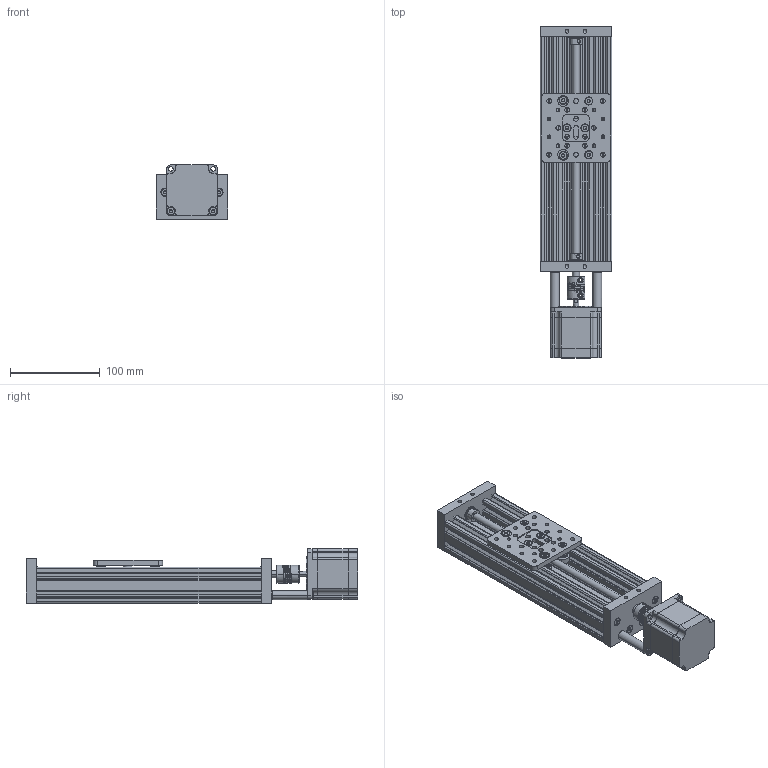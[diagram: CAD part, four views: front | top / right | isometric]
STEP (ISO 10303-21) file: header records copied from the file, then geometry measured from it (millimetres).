
FILE_DESCRIPTION(('FreeCAD Model'),'2;1');
FILE_NAME('Open CASCADE Shape Model','2021-05-04T10:34:42',('Author'),( ''),'Open CASCADE STEP processor 7.5','FreeCAD','Unknown');
FILE_SCHEMA(('AUTOMOTIVE_DESIGN { 1 0 10303 214 1 1 1 1 }'));
Products named in the file (1): Document
Bounding box: 80 x 370 x 60.67 mm (x, y, z)
Volume: 530553.6 mm3; surface area: 313214.2 mm2
Topology: 64 solids, 64 shells, 1578 faces, 11500 edges, 33149 vertices
Faces by surface type: bspline 826, plane 752
Entity records: 214814 total; most frequent: CARTESIAN_POINT 118391, B_SPLINE_CURVE_WITH_KNOTS 12012, GEOMETRIC_CURVE_SET 7665, ORIENTED_EDGE 7656, PCURVE 7656, DEFINITIONAL_REPRESENTATION 7656, TRIMMED_CURVE 7656, EDGE_CURVE 3828
